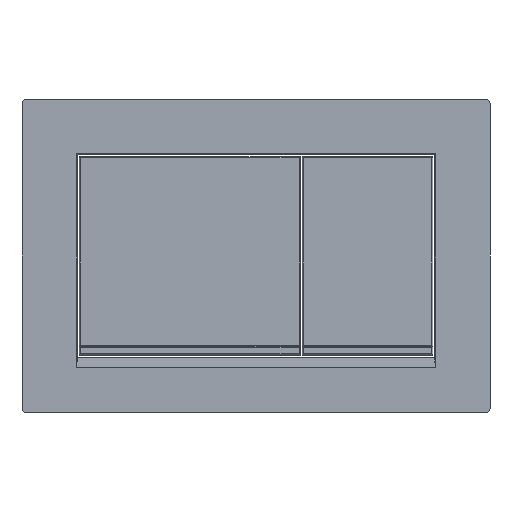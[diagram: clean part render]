
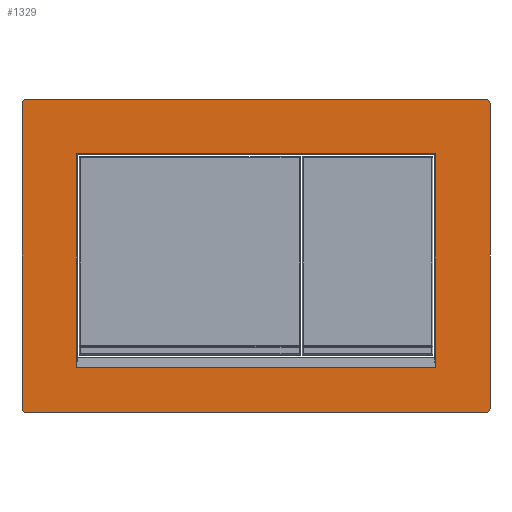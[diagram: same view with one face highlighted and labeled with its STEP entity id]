
A CAD part, front view. The second image highlights one B-rep face of the part: STEP entity #1329.
In plain terms, the highlighted planar face has unit normal (0, -1, 0).
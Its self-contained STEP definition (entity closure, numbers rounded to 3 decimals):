
#38=FACE_BOUND('',#162,.T.);
#41=CIRCLE('',#1429,2.);
#42=CIRCLE('',#1432,2.);
#43=CIRCLE('',#1433,2.);
#44=CIRCLE('',#1434,2.);
#45=CIRCLE('',#1435,1.);
#46=CIRCLE('',#1436,1.);
#85=FACE_OUTER_BOUND('',#161,.T.);
#161=EDGE_LOOP('',(#833,#834,#835,#836,#837,#838,#839,#840));
#162=EDGE_LOOP('',(#841,#842,#843,#844,#845,#846));
#243=LINE('',#1949,#384);
#246=LINE('',#1955,#387);
#247=LINE('',#1959,#388);
#248=LINE('',#1963,#389);
#249=LINE('',#1967,#390);
#250=LINE('',#1969,#391);
#251=LINE('',#1973,#392);
#252=LINE('',#1976,#393);
#384=VECTOR('',#1564,208.);
#387=VECTOR('',#1569,138.);
#388=VECTOR('',#1572,208.);
#389=VECTOR('',#1575,138.);
#390=VECTOR('',#1578,163.);
#391=VECTOR('',#1579,96.);
#392=VECTOR('',#1582,161.);
#393=VECTOR('',#1585,96.);
#525=VERTEX_POINT('',#1942);
#526=VERTEX_POINT('',#1944);
#527=VERTEX_POINT('',#1948);
#529=VERTEX_POINT('',#1954);
#530=VERTEX_POINT('',#1956);
#531=VERTEX_POINT('',#1958);
#532=VERTEX_POINT('',#1960);
#533=VERTEX_POINT('',#1962);
#534=VERTEX_POINT('',#1965);
#535=VERTEX_POINT('',#1966);
#536=VERTEX_POINT('',#1968);
#537=VERTEX_POINT('',#1970);
#538=VERTEX_POINT('',#1972);
#539=VERTEX_POINT('',#1974);
#643=EDGE_CURVE('',#525,#526,#41,.T.);
#645=EDGE_CURVE('',#527,#526,#243,.T.);
#648=EDGE_CURVE('',#525,#529,#246,.T.);
#649=EDGE_CURVE('',#530,#529,#42,.T.);
#650=EDGE_CURVE('',#530,#531,#247,.T.);
#651=EDGE_CURVE('',#532,#531,#43,.T.);
#652=EDGE_CURVE('',#532,#533,#248,.T.);
#653=EDGE_CURVE('',#527,#533,#44,.T.);
#654=EDGE_CURVE('',#534,#535,#249,.T.);
#655=EDGE_CURVE('',#536,#534,#250,.T.);
#656=EDGE_CURVE('',#537,#536,#45,.T.);
#657=EDGE_CURVE('',#538,#537,#251,.T.);
#658=EDGE_CURVE('',#539,#538,#46,.T.);
#659=EDGE_CURVE('',#535,#539,#252,.T.);
#833=ORIENTED_EDGE('',*,*,#643,.F.);
#834=ORIENTED_EDGE('',*,*,#648,.T.);
#835=ORIENTED_EDGE('',*,*,#649,.F.);
#836=ORIENTED_EDGE('',*,*,#650,.T.);
#837=ORIENTED_EDGE('',*,*,#651,.F.);
#838=ORIENTED_EDGE('',*,*,#652,.T.);
#839=ORIENTED_EDGE('',*,*,#653,.F.);
#840=ORIENTED_EDGE('',*,*,#645,.T.);
#841=ORIENTED_EDGE('',*,*,#654,.F.);
#842=ORIENTED_EDGE('',*,*,#655,.F.);
#843=ORIENTED_EDGE('',*,*,#656,.F.);
#844=ORIENTED_EDGE('',*,*,#657,.F.);
#845=ORIENTED_EDGE('',*,*,#658,.F.);
#846=ORIENTED_EDGE('',*,*,#659,.F.);
#1190=PLANE('',#1431);
#1329=ADVANCED_FACE('',(#85,#38),#1190,.T.);
#1429=AXIS2_PLACEMENT_3D('',#1945,#1559,#1560);
#1431=AXIS2_PLACEMENT_3D('',#1953,#1567,#1568);
#1432=AXIS2_PLACEMENT_3D('',#1957,#1570,#1571);
#1433=AXIS2_PLACEMENT_3D('',#1961,#1573,#1574);
#1434=AXIS2_PLACEMENT_3D('',#1964,#1576,#1577);
#1435=AXIS2_PLACEMENT_3D('',#1971,#1580,#1581);
#1436=AXIS2_PLACEMENT_3D('',#1975,#1583,#1584);
#1559=DIRECTION('center_axis',(0.,1.,0.));
#1560=DIRECTION('ref_axis',(-0.707,0.,0.707));
#1564=DIRECTION('',(-1.,0.,0.));
#1567=DIRECTION('center_axis',(0.,-1.,0.));
#1568=DIRECTION('ref_axis',(0.,0.,-1.));
#1569=DIRECTION('',(0.,0.,-1.));
#1570=DIRECTION('center_axis',(0.,1.,0.));
#1571=DIRECTION('ref_axis',(-0.707,0.,-0.707));
#1572=DIRECTION('',(1.,0.,0.));
#1573=DIRECTION('center_axis',(0.,1.,0.));
#1574=DIRECTION('ref_axis',(0.707,0.,-0.707));
#1575=DIRECTION('',(0.,0.,1.));
#1576=DIRECTION('center_axis',(0.,1.,0.));
#1577=DIRECTION('ref_axis',(0.707,0.,0.707));
#1578=DIRECTION('',(1.,0.,0.));
#1579=DIRECTION('',(0.,0.,-1.));
#1580=DIRECTION('center_axis',(0.,-1.,0.));
#1581=DIRECTION('ref_axis',(-0.707,0.,0.707));
#1582=DIRECTION('',(-1.,0.,0.));
#1583=DIRECTION('center_axis',(0.,-1.,0.));
#1584=DIRECTION('ref_axis',(0.707,0.,0.707));
#1585=DIRECTION('',(0.,0.,1.));
#1942=CARTESIAN_POINT('',(-106.,-10.,69.));
#1944=CARTESIAN_POINT('',(-104.,-10.,71.));
#1945=CARTESIAN_POINT('Origin',(-104.,-10.,69.));
#1948=CARTESIAN_POINT('',(104.,-10.,71.));
#1949=CARTESIAN_POINT('',(106.,-10.,71.));
#1953=CARTESIAN_POINT('Origin',(0.,-10.,0.));
#1954=CARTESIAN_POINT('',(-106.,-10.,-69.));
#1955=CARTESIAN_POINT('',(-106.,-10.,71.));
#1956=CARTESIAN_POINT('',(-104.,-10.,-71.));
#1957=CARTESIAN_POINT('Origin',(-104.,-10.,-69.));
#1958=CARTESIAN_POINT('',(104.,-10.,-71.));
#1959=CARTESIAN_POINT('',(-106.,-10.,-71.));
#1960=CARTESIAN_POINT('',(106.,-10.,-69.));
#1961=CARTESIAN_POINT('Origin',(104.,-10.,-69.));
#1962=CARTESIAN_POINT('',(106.,-10.,69.));
#1963=CARTESIAN_POINT('',(106.,-10.,-71.));
#1964=CARTESIAN_POINT('Origin',(104.,-10.,69.));
#1965=CARTESIAN_POINT('',(-81.5,-10.,-50.5));
#1966=CARTESIAN_POINT('',(81.5,-10.,-50.5));
#1967=CARTESIAN_POINT('',(0.,-10.,-50.5));
#1968=CARTESIAN_POINT('',(-81.5,-10.,45.5));
#1969=CARTESIAN_POINT('',(-81.5,-10.,-23.));
#1970=CARTESIAN_POINT('',(-80.5,-10.,46.5));
#1971=CARTESIAN_POINT('Origin',(-80.5,-10.,45.5));
#1972=CARTESIAN_POINT('',(80.5,-10.,46.5));
#1973=CARTESIAN_POINT('',(-40.5,-10.,46.5));
#1974=CARTESIAN_POINT('',(81.5,-10.,45.5));
#1975=CARTESIAN_POINT('Origin',(80.5,-10.,45.5));
#1976=CARTESIAN_POINT('',(81.5,-10.,23.));
